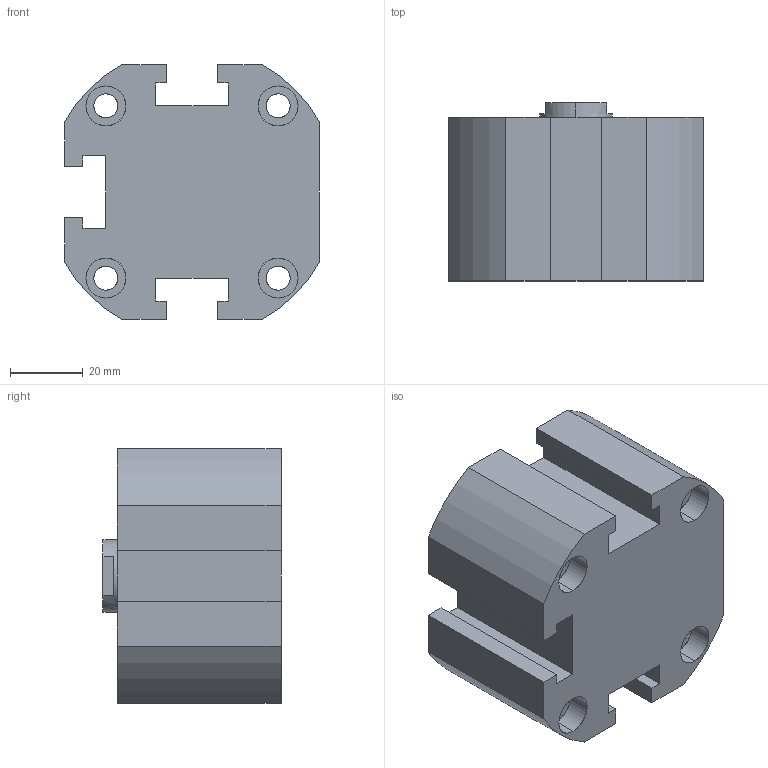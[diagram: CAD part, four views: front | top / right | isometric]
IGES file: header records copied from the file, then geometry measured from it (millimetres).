
Start section: SolidWorks IGES file using analytic representation for surfaces
Global section: file name: C:\Users\Toshiba\Desktop\XG#1-50-10.IGS; native system: SolidWorks 2014; preprocessor: SolidWorks 2014; author: Toshiba; date: 160524.094427; units: millimetre
Bounding box: 70 x 49 x 70 mm (x, y, z)
Surface area: 29136.2 mm2 (no closed solid volume)
Topology: 0 solids, 0 shells, 107 faces, 1922 edges, 1918 vertices
Faces by surface type: revolution 58, bspline 49
